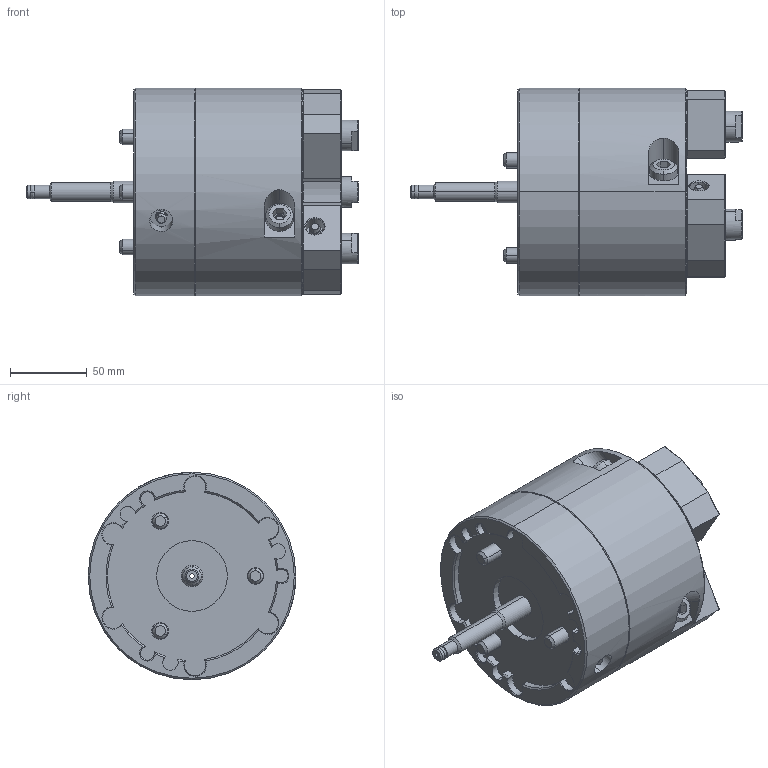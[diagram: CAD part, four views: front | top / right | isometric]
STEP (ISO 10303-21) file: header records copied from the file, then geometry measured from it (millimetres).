
FILE_DESCRIPTION (( 'STEP AP214' ), '1' );
FILE_NAME ('FG05_OC.STEP', '2019-11-22T01:11:51', ( '' ), ( '' ), 'SwSTEP 2.0', 'SolidWorks 2017', '' );
FILE_SCHEMA (( 'AUTOMOTIVE_DESIGN' ));
Length unit declared in the file: millimetre
Products named in the file (2): 結合; FG05_OC
Assembly tree (1 placements, depth 2):
  FG05_OC
    結合
Bounding box: 216 x 135 x 135 mm (x, y, z)
Volume: 1648345.2 mm3; surface area: 144784.3 mm2
Topology: 3 solids, 24 shells, 1661 faces, 3974 edges, 2415 vertices
Faces by surface type: plane 771, cone 368, cylinder 327, bspline 121, torus 74
Entity records: 53199 total; most frequent: CARTESIAN_POINT 15301, ORIENTED_EDGE 7852, DIRECTION 7804, EDGE_CURVE 3926, AXIS2_PLACEMENT_3D 2883, VERTEX_POINT 2415, VECTOR 2038, LINE 2038
